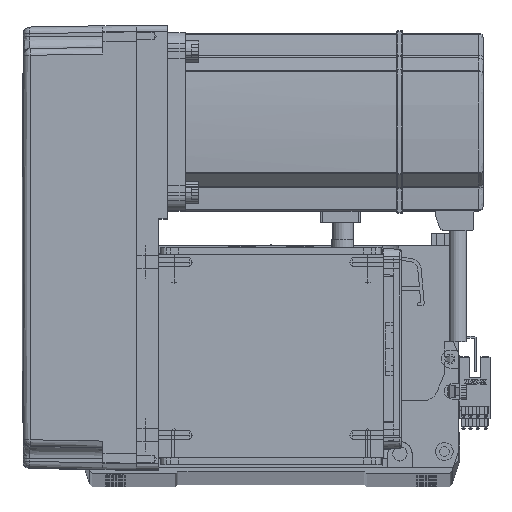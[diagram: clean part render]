
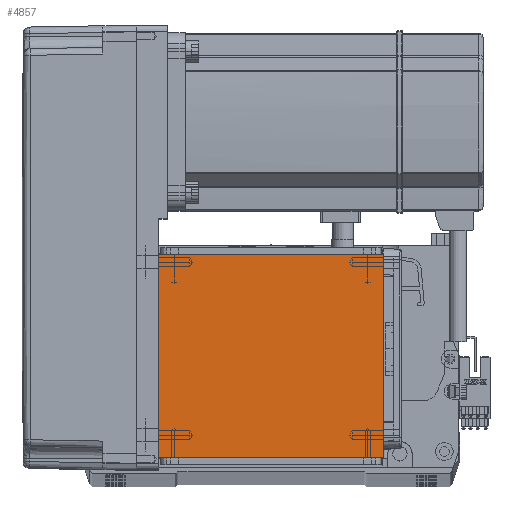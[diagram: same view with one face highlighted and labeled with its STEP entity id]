
A CAD part, top view. The second image highlights one B-rep face of the part: STEP entity #4857.
In plain terms, the highlighted planar face has unit normal (0, 0, 1).
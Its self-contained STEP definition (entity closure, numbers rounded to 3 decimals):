
#1984 = VECTOR ( 'NONE', #58217, 1000. ) ;
#2378 = EDGE_CURVE ( 'NONE', #56306, #30110, #49664, .T. ) ;
#3539 = VERTEX_POINT ( 'NONE', #7376 ) ;
#4354 = ORIENTED_EDGE ( 'NONE', *, *, #2378, .T. ) ;
#4857 = ADVANCED_FACE ( 'NONE', ( #25707 ), #53147, .T. ) ;
#5914 = DIRECTION ( 'NONE',  ( 1., 0., 0. ) ) ;
#6041 = VECTOR ( 'NONE', #47592, 1000. ) ;
#7376 = CARTESIAN_POINT ( 'NONE',  ( 50.5, 111.5, 115. ) ) ;
#10127 = LINE ( 'NONE', #21621, #1984 ) ;
#11738 = LINE ( 'NONE', #32141, #6041 ) ;
#14068 = EDGE_CURVE ( 'NONE', #56306, #3539, #29086, .T. ) ;
#15188 = VECTOR ( 'NONE', #54418, 1000. ) ;
#18017 = ORIENTED_EDGE ( 'NONE', *, *, #42158, .F. ) ;
#21621 = CARTESIAN_POINT ( 'NONE',  ( -70.004, 20., 115. ) ) ;
#22078 = CARTESIAN_POINT ( 'NONE',  ( -50.5, 20., 115. ) ) ;
#22285 = CARTESIAN_POINT ( 'NONE',  ( -50.5, 111.5, 115. ) ) ;
#24073 = ORIENTED_EDGE ( 'NONE', *, *, #14068, .F. ) ;
#25707 = FACE_OUTER_BOUND ( 'NONE', #39102, .T. ) ;
#27729 = DIRECTION ( 'NONE',  ( 0., -1., 0. ) ) ;
#29086 = LINE ( 'NONE', #54639, #15188 ) ;
#30110 = VERTEX_POINT ( 'NONE', #22078 ) ;
#32141 = CARTESIAN_POINT ( 'NONE',  ( 50.5, 122., 115. ) ) ;
#36578 = CARTESIAN_POINT ( 'NONE',  ( 0., 0., 115. ) ) ;
#39102 = EDGE_LOOP ( 'NONE', ( #24073, #4354, #18017, #61384 ) ) ;
#42072 = DIRECTION ( 'NONE',  ( 0., 0., 1. ) ) ;
#42158 = EDGE_CURVE ( 'NONE', #58057, #30110, #10127, .T. ) ;
#46973 = CARTESIAN_POINT ( 'NONE',  ( -50.5, 122., 115. ) ) ;
#47592 = DIRECTION ( 'NONE',  ( 0., 1., 0. ) ) ;
#49664 = LINE ( 'NONE', #46973, #51291 ) ;
#51291 = VECTOR ( 'NONE', #27729, 1000. ) ;
#51564 = CARTESIAN_POINT ( 'NONE',  ( 50.5, 20., 115. ) ) ;
#53147 = PLANE ( 'NONE',  #65516 ) ;
#54418 = DIRECTION ( 'NONE',  ( 1., 0., 0. ) ) ;
#54639 = CARTESIAN_POINT ( 'NONE',  ( -70.004, 111.5, 115. ) ) ;
#56306 = VERTEX_POINT ( 'NONE', #22285 ) ;
#58057 = VERTEX_POINT ( 'NONE', #51564 ) ;
#58217 = DIRECTION ( 'NONE',  ( -1., 0., 0. ) ) ;
#61384 = ORIENTED_EDGE ( 'NONE', *, *, #65749, .T. ) ;
#65516 = AXIS2_PLACEMENT_3D ( 'NONE', #36578, #42072, #5914 ) ;
#65749 = EDGE_CURVE ( 'NONE', #58057, #3539, #11738, .T. ) ;
